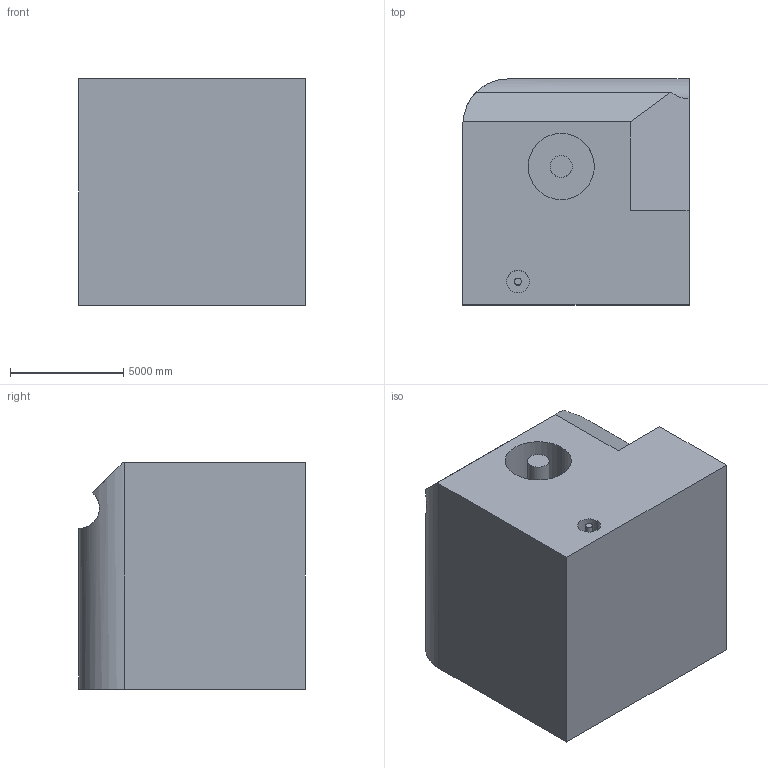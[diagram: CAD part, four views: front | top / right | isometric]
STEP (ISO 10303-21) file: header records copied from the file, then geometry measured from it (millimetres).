
FILE_DESCRIPTION (( 'STEP AP203' ), '1' );
FILE_NAME ('151.STEP', '2022-09-06T15:14:15', ( 'user' ), ( '' ), 'SwSTEP 2.0', 'SolidWorks 2021', '' );
FILE_SCHEMA (( 'CONFIG_CONTROL_DESIGN' ));
Length unit declared in the file: centimetre
Products named in the file (1): 151
Bounding box: 10000 x 10000 x 10000 mm (x, y, z)
Volume: 928591225835.6 mm3; surface area: 643007915.7 mm2
Topology: 1 solids, 1 shells, 23 faces, 51 edges, 34 vertices
Faces by surface type: plane 13, cylinder 10
Entity records: 856 total; most frequent: CARTESIAN_POINT 252, DIRECTION 115, ORIENTED_EDGE 102, EDGE_CURVE 51, AXIS2_PLACEMENT_3D 43, VERTEX_POINT 34, VECTOR 29, LINE 29
